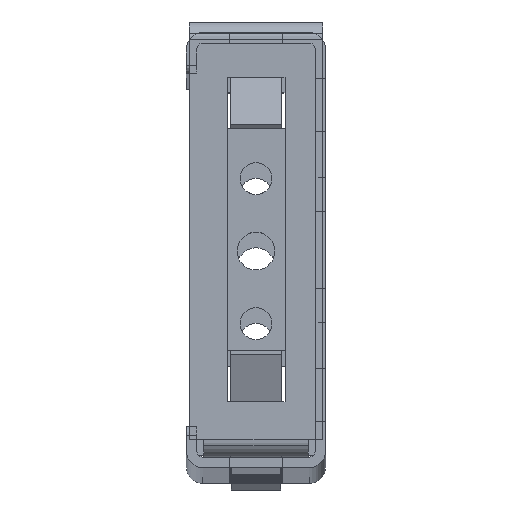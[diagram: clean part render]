
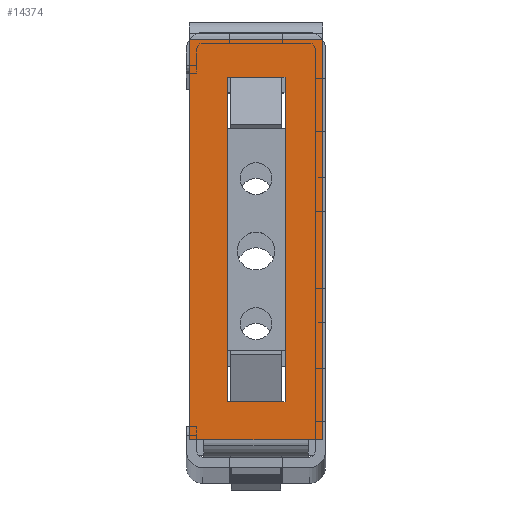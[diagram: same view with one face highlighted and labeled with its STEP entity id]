
A CAD part, top view. The second image highlights one B-rep face of the part: STEP entity #14374.
In plain terms, the highlighted planar face has unit normal (0, 0, 1) as drawn and (-1, 0, 0) by its records, which use the part's own axes.
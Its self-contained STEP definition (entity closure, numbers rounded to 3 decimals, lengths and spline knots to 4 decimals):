
#14189 = VERTEX_POINT ( 'NONE', #42322 ) ;
#14196 = VERTEX_POINT ( 'NONE', #42449 ) ;
#14230 = ORIENTED_EDGE ( 'NONE', *, *, #14431, .F. ) ;
#14248 = EDGE_CURVE ( 'NONE', #14196, #14189, #42678, .T. ) ;
#14254 = VERTEX_POINT ( 'NONE', #42646 ) ;
#14260 = VERTEX_POINT ( 'NONE', #42621 ) ;
#14262 = EDGE_CURVE ( 'NONE', #14260, #14254, #39664, .T. ) ;
#14309 = VERTEX_POINT ( 'NONE', #42847 ) ;
#14311 = EDGE_CURVE ( 'NONE', #14312, #14309, #42842, .T. ) ;
#14312 = VERTEX_POINT ( 'NONE', #42979 ) ;
#14316 = EDGE_LOOP ( 'NONE', ( #14375, #14378, #14381, #14383, #14384, #14361, #14364, #14366 ) ) ;
#14350 = VERTEX_POINT ( 'NONE', #42997 ) ;
#14351 = ORIENTED_EDGE ( 'NONE', *, *, #14352, .F. ) ;
#14352 = EDGE_CURVE ( 'NONE', #14312, #14350, #42993, .T. ) ;
#14353 = ORIENTED_EDGE ( 'NONE', *, *, #14311, .T. ) ;
#14361 = ORIENTED_EDGE ( 'NONE', *, *, #14362, .F. ) ;
#14362 = EDGE_CURVE ( 'NONE', #14363, #14386, #43100, .T. ) ;
#14363 = VERTEX_POINT ( 'NONE', #43093 ) ;
#14364 = ORIENTED_EDGE ( 'NONE', *, *, #14365, .F. ) ;
#14365 = EDGE_CURVE ( 'NONE', #14254, #14363, #43089, .T. ) ;
#14366 = ORIENTED_EDGE ( 'NONE', *, *, #14262, .F. ) ;
#14367 = EDGE_LOOP ( 'NONE', ( #14368, #14371, #14230, #14433, #14351, #14353 ) ) ;
#14368 = ORIENTED_EDGE ( 'NONE', *, *, #14369, .T. ) ;
#14369 = EDGE_CURVE ( 'NONE', #14309, #14370, #43080, .T. ) ;
#14370 = VERTEX_POINT ( 'NONE', #43073 ) ;
#14371 = ORIENTED_EDGE ( 'NONE', *, *, #14372, .F. ) ;
#14372 = EDGE_CURVE ( 'NONE', #14373, #14370, #43068, .T. ) ;
#14373 = VERTEX_POINT ( 'NONE', #43061 ) ;
#14374 = ADVANCED_FACE ( 'NONE', ( #43059, #43058 ), #43198, .F. ) ;
#14375 = ORIENTED_EDGE ( 'NONE', *, *, #14376, .F. ) ;
#14376 = EDGE_CURVE ( 'NONE', #14377, #14260, #43200, .T. ) ;
#14377 = VERTEX_POINT ( 'NONE', #43181 ) ;
#14378 = ORIENTED_EDGE ( 'NONE', *, *, #14379, .F. ) ;
#14379 = EDGE_CURVE ( 'NONE', #14380, #14377, #43175, .T. ) ;
#14380 = VERTEX_POINT ( 'NONE', #43170 ) ;
#14381 = ORIENTED_EDGE ( 'NONE', *, *, #14382, .T. ) ;
#14382 = EDGE_CURVE ( 'NONE', #14380, #14189, #43165, .T. ) ;
#14383 = ORIENTED_EDGE ( 'NONE', *, *, #14248, .F. ) ;
#14384 = ORIENTED_EDGE ( 'NONE', *, *, #14385, .F. ) ;
#14385 = EDGE_CURVE ( 'NONE', #14386, #14196, #43155, .T. ) ;
#14386 = VERTEX_POINT ( 'NONE', #43147 ) ;
#14431 = EDGE_CURVE ( 'NONE', #14432, #14373, #43389, .T. ) ;
#14432 = VERTEX_POINT ( 'NONE', #43383 ) ;
#14433 = ORIENTED_EDGE ( 'NONE', *, *, #14434, .F. ) ;
#14434 = EDGE_CURVE ( 'NONE', #14350, #14432, #43379, .T. ) ;
#39656 = CARTESIAN_POINT ( 'NONE',  ( 0., 2.5768, -0.1969 ) ) ;
#39664 = LINE ( 'NONE', #39656, #40268 ) ;
#40266 = DIRECTION ( 'NONE',  ( 0., 0., -1. ) ) ;
#40268 = VECTOR ( 'NONE', #40266, 39.3701 ) ;
#42322 = CARTESIAN_POINT ( 'NONE',  ( 0., 0.376, -0.1732 ) ) ;
#42449 = CARTESIAN_POINT ( 'NONE',  ( 0., 0.376, -0.1969 ) ) ;
#42621 = CARTESIAN_POINT ( 'NONE',  ( 0., 2.5768, 0.1969 ) ) ;
#42646 = CARTESIAN_POINT ( 'NONE',  ( 0., 2.5768, 0.1732 ) ) ;
#42673 = DIRECTION ( 'NONE',  ( 0., 0., 1. ) ) ;
#42675 = VECTOR ( 'NONE', #42673, 39.3701 ) ;
#42677 = CARTESIAN_POINT ( 'NONE',  ( 0., 0.376, -0.1969 ) ) ;
#42678 = LINE ( 'NONE', #42677, #42675 ) ;
#42837 = DIRECTION ( 'NONE',  ( 0., 0., -1. ) ) ;
#42839 = VECTOR ( 'NONE', #42837, 39.3701 ) ;
#42841 = CARTESIAN_POINT ( 'NONE',  ( 0., 2.8346, 0.4528 ) ) ;
#42842 = LINE ( 'NONE', #42841, #42839 ) ;
#42847 = CARTESIAN_POINT ( 'NONE',  ( 0., 2.8346, -0.4528 ) ) ;
#42979 = CARTESIAN_POINT ( 'NONE',  ( 0., 2.8346, 0.4528 ) ) ;
#42988 = DIRECTION ( 'NONE',  ( 0., -1., 0. ) ) ;
#42990 = VECTOR ( 'NONE', #42988, 39.3701 ) ;
#42992 = CARTESIAN_POINT ( 'NONE',  ( 0., 0.1181, 0.4528 ) ) ;
#42993 = LINE ( 'NONE', #42992, #42990 ) ;
#42997 = CARTESIAN_POINT ( 'NONE',  ( 0., 0.1181, 0.4528 ) ) ;
#43058 = FACE_OUTER_BOUND ( 'NONE', #14367, .T. ) ;
#43059 = FACE_BOUND ( 'NONE', #14316, .T. ) ;
#43061 = CARTESIAN_POINT ( 'NONE',  ( 0., 0.1181, -0.3543 ) ) ;
#43063 = DIRECTION ( 'NONE',  ( 0., 0., -1. ) ) ;
#43065 = VECTOR ( 'NONE', #43063, 39.3701 ) ;
#43066 = CARTESIAN_POINT ( 'NONE',  ( 0., 0.1181, -0.4528 ) ) ;
#43068 = LINE ( 'NONE', #43066, #43065 ) ;
#43073 = CARTESIAN_POINT ( 'NONE',  ( 0., 0.1181, -0.4528 ) ) ;
#43075 = DIRECTION ( 'NONE',  ( 0., -1., 0. ) ) ;
#43077 = VECTOR ( 'NONE', #43075, 39.3701 ) ;
#43079 = CARTESIAN_POINT ( 'NONE',  ( 0., 0.1181, -0.4528 ) ) ;
#43080 = LINE ( 'NONE', #43079, #43077 ) ;
#43085 = DIRECTION ( 'NONE',  ( 0., 0., -1. ) ) ;
#43086 = VECTOR ( 'NONE', #43085, 39.3701 ) ;
#43087 = CARTESIAN_POINT ( 'NONE',  ( 0., 2.5768, 0.1732 ) ) ;
#43089 = LINE ( 'NONE', #43087, #43086 ) ;
#43093 = CARTESIAN_POINT ( 'NONE',  ( 0., 2.5768, -0.1732 ) ) ;
#43096 = DIRECTION ( 'NONE',  ( 0., 0., -1. ) ) ;
#43097 = VECTOR ( 'NONE', #43096, 39.3701 ) ;
#43099 = CARTESIAN_POINT ( 'NONE',  ( 0., 2.5768, -0.1969 ) ) ;
#43100 = LINE ( 'NONE', #43099, #43097 ) ;
#43147 = CARTESIAN_POINT ( 'NONE',  ( 0., 2.5768, -0.1969 ) ) ;
#43150 = DIRECTION ( 'NONE',  ( 0., -1., 0. ) ) ;
#43151 = VECTOR ( 'NONE', #43150, 39.3701 ) ;
#43153 = CARTESIAN_POINT ( 'NONE',  ( 0., 0.565, -0.1969 ) ) ;
#43155 = LINE ( 'NONE', #43153, #43151 ) ;
#43160 = DIRECTION ( 'NONE',  ( 0., 0., -1. ) ) ;
#43161 = VECTOR ( 'NONE', #43160, 39.3701 ) ;
#43163 = CARTESIAN_POINT ( 'NONE',  ( 0., 0.376, 0.1732 ) ) ;
#43165 = LINE ( 'NONE', #43163, #43161 ) ;
#43170 = CARTESIAN_POINT ( 'NONE',  ( 0., 0.376, 0.1732 ) ) ;
#43171 = DIRECTION ( 'NONE',  ( 0., 0., 1. ) ) ;
#43173 = VECTOR ( 'NONE', #43171, 39.3701 ) ;
#43174 = CARTESIAN_POINT ( 'NONE',  ( 0., 0.376, -0.1969 ) ) ;
#43175 = LINE ( 'NONE', #43174, #43173 ) ;
#43181 = CARTESIAN_POINT ( 'NONE',  ( 0., 0.376, 0.1969 ) ) ;
#43183 = DIRECTION ( 'NONE',  ( 0., 1., 0. ) ) ;
#43185 = VECTOR ( 'NONE', #43183, 39.3701 ) ;
#43187 = CARTESIAN_POINT ( 'NONE',  ( 0., 0.565, 0.1969 ) ) ;
#43191 = DIRECTION ( 'NONE',  ( 0., 0., -1. ) ) ;
#43193 = DIRECTION ( 'NONE',  ( 1., 0., 0. ) ) ;
#43195 = CARTESIAN_POINT ( 'NONE',  ( 0., 0.1181, 0.4528 ) ) ;
#43196 = AXIS2_PLACEMENT_3D ( 'NONE', #43195, #43193, #43191 ) ;
#43198 = PLANE ( 'NONE',  #43196 ) ;
#43200 = LINE ( 'NONE', #43187, #43185 ) ;
#43375 = DIRECTION ( 'NONE',  ( 0., 0., -1. ) ) ;
#43376 = VECTOR ( 'NONE', #43375, 39.3701 ) ;
#43378 = CARTESIAN_POINT ( 'NONE',  ( 0., 0.1181, 0.4528 ) ) ;
#43379 = LINE ( 'NONE', #43378, #43376 ) ;
#43383 = CARTESIAN_POINT ( 'NONE',  ( 0., 0.1181, 0.3543 ) ) ;
#43385 = DIRECTION ( 'NONE',  ( 0., 0., -1. ) ) ;
#43386 = VECTOR ( 'NONE', #43385, 39.3701 ) ;
#43388 = CARTESIAN_POINT ( 'NONE',  ( 0., 0.1181, 0.4528 ) ) ;
#43389 = LINE ( 'NONE', #43388, #43386 ) ;
